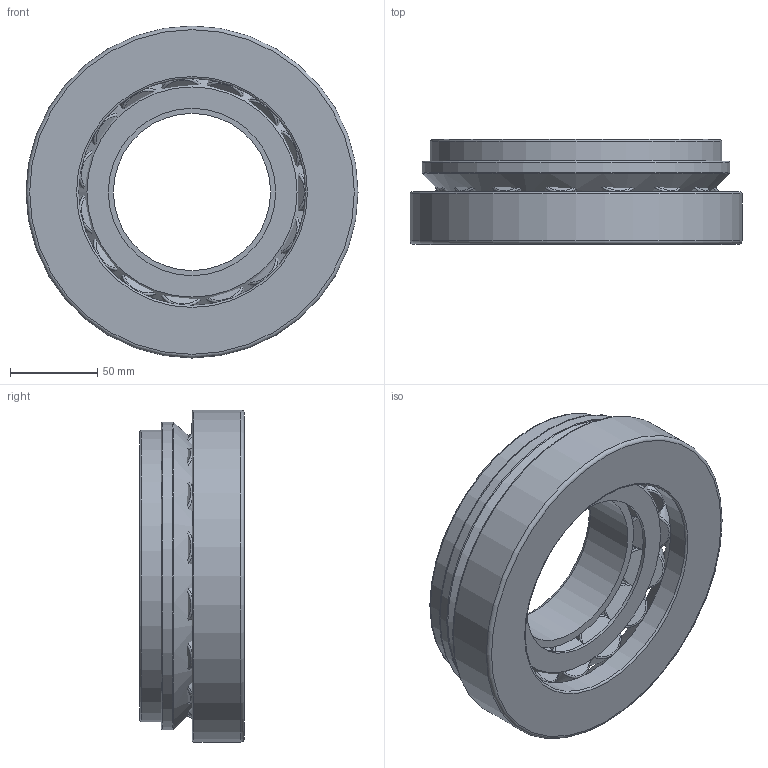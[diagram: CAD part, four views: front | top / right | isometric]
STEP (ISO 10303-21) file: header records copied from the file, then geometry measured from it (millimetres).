
FILE_DESCRIPTION(/* description */ (''),/* implementation_level */ '2;1');
FILE_NAME(/* name */ 'C:\Users\OUREHANEKD\Desktop\Ložiská\MODELY\ASL\294EJ\294--\29418EJ.stp',/* time_stamp */ '2016-09-23T12:55:29+02:00',/* author */ ('OUREHANEKD'),/* organization */ (''),/* preprocessor_version */ 'ST-DEVELOPER v15.6',/* originating_system */ 'Autodesk Inventor 2015',/* authorisation */ '');
FILE_SCHEMA (('AUTOMOTIVE_DESIGN { 1 0 10303 214 3 1 1 }'));
Length unit declared in the file: millimetre
Products named in the file (5): 29418EJ-01; 29418EJ-02; 29418EJ-kl; 29418EJ-roller; 29418EJ
Assembly tree (18 placements, depth 2):
  29418EJ
    29418EJ-01
    29418EJ-02
    29418EJ-kl
    29418EJ-roller  x15
Bounding box: 190 x 60 x 190 mm (x, y, z)
Volume: 910219.6 mm3; surface area: 211446.3 mm2
Topology: 18 solids, 18 shells, 108 faces, 197 edges, 129 vertices
Faces by surface type: plane 40, torus 38, bspline 18, cylinder 9, cone 3
Full cylindrical faces by diameter (mm): 90 x1, 95.76 x1, 130 x1, 166.8 x2, 172.44 x2, 176.04 x1, 190 x1
Entity records: 1169 total; most frequent: CARTESIAN_POINT 267, DIRECTION 204, AXIS2_PLACEMENT_3D 102, ORIENTED_EDGE 98, EDGE_LOOP 70, EDGE_CURVE 49, CIRCLE 45, VERTEX_POINT 45
